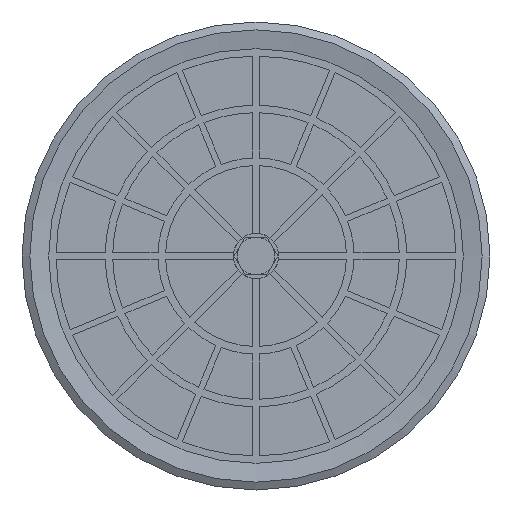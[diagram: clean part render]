
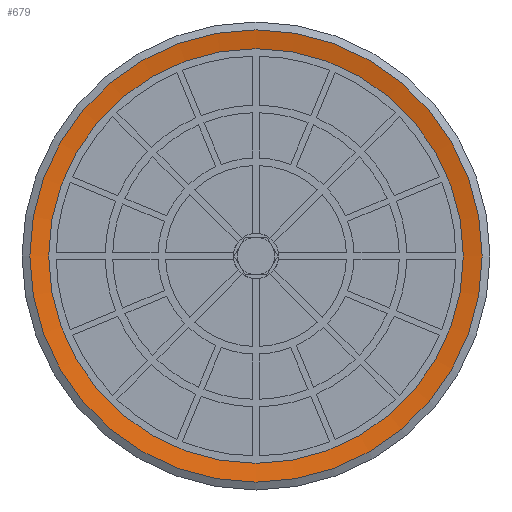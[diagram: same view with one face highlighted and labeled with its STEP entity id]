
A CAD part, front view. The second image highlights one B-rep face of the part: STEP entity #679.
In plain terms, the highlighted conical face has half-angle 80 degrees and reference radius 15 mm.
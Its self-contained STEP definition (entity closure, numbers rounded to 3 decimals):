
#679=ADVANCED_FACE('',(#1333,#1334),#1335,.F.);
#1333=FACE_BOUND('',#2111,.T.);
#1334=FACE_OUTER_BOUND('',#2112,.T.);
#1335=CONICAL_SURFACE('',#2113,15.0,1.396);
#2111=EDGE_LOOP('',(#4073));
#2112=EDGE_LOOP('',(#4074));
#2113=AXIS2_PLACEMENT_3D('',#4075,#4076,#4077);
#4073=ORIENTED_EDGE('',*,*,#5506,.T.);
#4074=ORIENTED_EDGE('',*,*,#5526,.F.);
#4075=CARTESIAN_POINT('',(0.0,0.,0.));
#4076=DIRECTION('',(0.0,0.,-1.0));
#4077=DIRECTION('',(0.0,1.0,0.));
#5506=EDGE_CURVE('',#6716,#6716,#6717,.T.);
#5526=EDGE_CURVE('',#6747,#6747,#6748,.T.);
#6716=VERTEX_POINT('',#8730);
#6717=CIRCLE('',#8731,13.75);
#6747=VERTEX_POINT('',#8774);
#6748=CIRCLE('',#8775,15.0);
#8730=CARTESIAN_POINT('',(0.0,-13.75,0.22));
#8731=AXIS2_PLACEMENT_3D('',#10008,#10009,#10010);
#8774=CARTESIAN_POINT('',(0.0,-15.0,0.));
#8775=AXIS2_PLACEMENT_3D('',#10042,#10043,#10044);
#10008=CARTESIAN_POINT('',(0.0,0.,0.22));
#10009=DIRECTION('',(0.0,0.,1.0));
#10010=DIRECTION('',(0.0,-1.0,0.));
#10042=CARTESIAN_POINT('',(0.0,0.,0.));
#10043=DIRECTION('',(0.0,0.,1.0));
#10044=DIRECTION('',(0.0,-1.0,0.));
